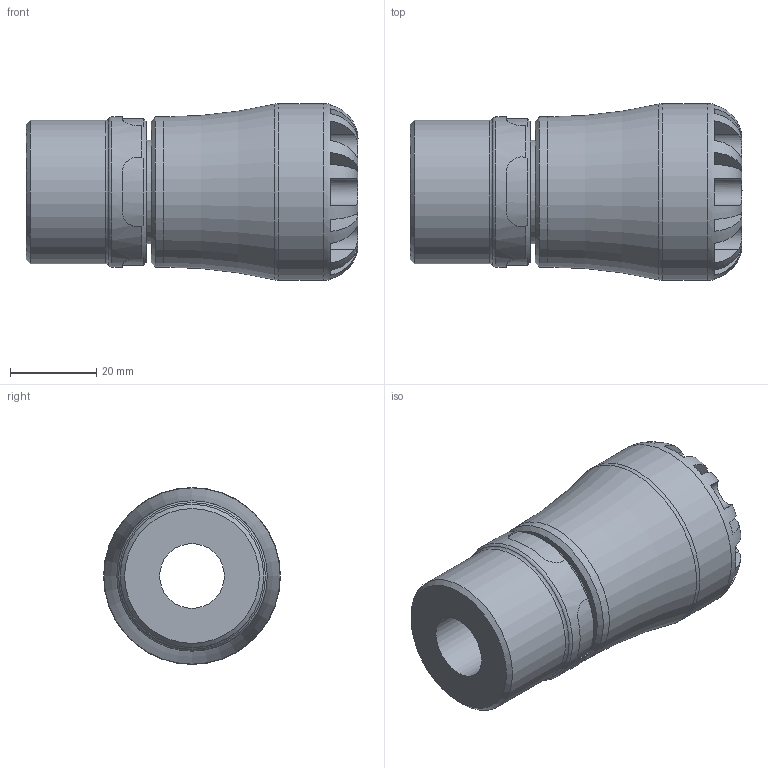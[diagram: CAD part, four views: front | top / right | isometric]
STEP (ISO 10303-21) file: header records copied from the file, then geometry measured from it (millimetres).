
FILE_DESCRIPTION(/* description */ ('PLASSON MALE ADAPTOR 20X1" SERIES 1'),/* implementation_level */ '2;1');
FILE_NAME(/* name */ 'C:\Dropbox\KIMPROJECTS-Inventor 2019\99-16-3568-Processing\S1\10N20\stp\10N200020010_10N2G0020010.stp',/* time_stamp */ '2024-03-12T13:19:04+01:00',/* author */ ('KIM'),/* organization */ (''),/* preprocessor_version */ 'ST-DEVELOPER v17.2',/* originating_system */ 'Autodesk Inventor 2019',/* authorisation */ '');
FILE_SCHEMA (('AUTOMOTIVE_DESIGN { 1 0 10303 214 3 1 1 }'));
Length unit declared in the file: millimetre
Products named in the file (1): 10N200020010_10N2G0020010
Bounding box: 77 x 41 x 41 mm (x, y, z)
Volume: 57352.8 mm3; surface area: 16583.6 mm2
Topology: 1 solids, 1 shells, 101 faces, 270 edges, 174 vertices
Faces by surface type: plane 57, cylinder 35, torus 5, cone 4
Full cylindrical faces by diameter (mm): 15 x1, 20 x1, 24 x1, 33.249 x1, 34.85 x2, 41 x1
Entity records: 4011 total; most frequent: CARTESIAN_POINT 1406, ORIENTED_EDGE 540, DIRECTION 517, EDGE_CURVE 270, AXIS2_PLACEMENT_3D 217, VERTEX_POINT 174, CIRCLE 115, EDGE_LOOP 106
